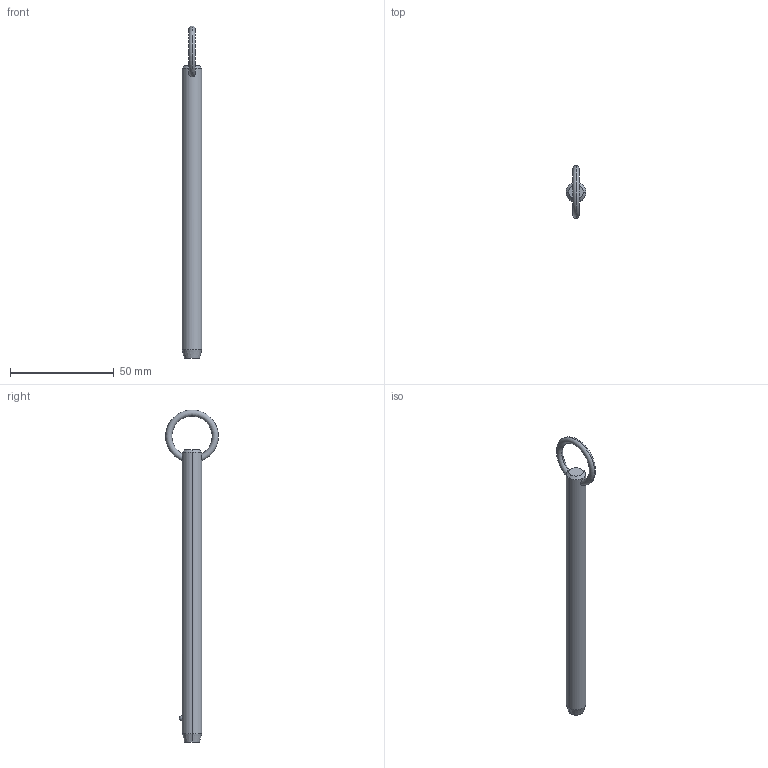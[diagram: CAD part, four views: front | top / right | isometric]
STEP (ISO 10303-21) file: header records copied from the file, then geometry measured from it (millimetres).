
FILE_DESCRIPTION (( 'STEP AP203' ), '1' );
FILE_NAME ('P1250.037-480.step', '2019-07-29T20:12:04', ( '' ), ( '' ), 'SwSTEP 2.0', 'SolidWorks 2017', '' );
FILE_SCHEMA (( 'CONFIG_CONTROL_DESIGN' ));
Length unit declared in the file: millimetre
Products named in the file (1): P1250.037-480
Bounding box: 9.52 x 25.39 x 160 mm (x, y, z)
Volume: 10384.1 mm3; surface area: 4857.7 mm2
Topology: 1 solids, 1 shells, 12 faces, 28 edges, 17 vertices
Faces by surface type: cone 4, torus 2, sphere 2, cylinder 2, plane 2
Entity records: 523 total; most frequent: CARTESIAN_POINT 190, DIRECTION 56, ORIENTED_EDGE 48, AXIS2_PLACEMENT_3D 25, EDGE_CURVE 24, VERTEX_POINT 15, EDGE_LOOP 15, ADVANCED_FACE 12
